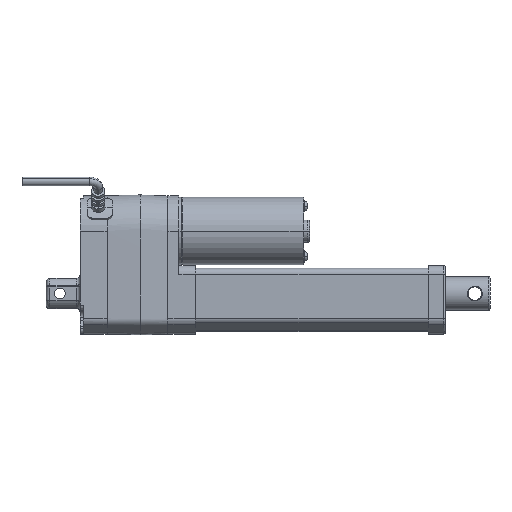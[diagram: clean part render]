
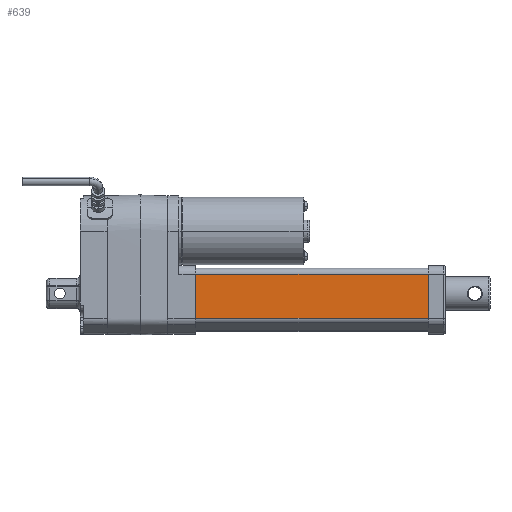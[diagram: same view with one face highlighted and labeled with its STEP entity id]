
A CAD part, top view. The second image highlights one B-rep face of the part: STEP entity #639.
In plain terms, the highlighted planar face has unit normal (0, 0, 1).
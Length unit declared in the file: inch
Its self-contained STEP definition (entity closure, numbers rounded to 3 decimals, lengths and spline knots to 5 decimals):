
#639=ADVANCED_FACE('',(#1450),#1451,.T.);
#1450=FACE_OUTER_BOUND('',#2650,.T.);
#1451=PLANE('',#2651);
#2650=EDGE_LOOP('',(#4625,#4626,#4627,#4628));
#2651=AXIS2_PLACEMENT_3D('',#4629,#4630,#4631);
#4625=ORIENTED_EDGE('',*,*,#7020,.F.);
#4626=ORIENTED_EDGE('',*,*,#7021,.F.);
#4627=ORIENTED_EDGE('',*,*,#7022,.T.);
#4628=ORIENTED_EDGE('',*,*,#6821,.T.);
#4629=CARTESIAN_POINT('',(8.12992,-0.5801,0.76772));
#4630=DIRECTION('',(0.0,-0.0,1.0));
#4631=DIRECTION('',(0.0,1.0,0.0));
#6821=EDGE_CURVE('',#8302,#8299,#8303,.T.);
#7020=EDGE_CURVE('',#8590,#8299,#8591,.T.);
#7021=EDGE_CURVE('',#8592,#8590,#8593,.T.);
#7022=EDGE_CURVE('',#8592,#8302,#8594,.T.);
#8299=VERTEX_POINT('',#10424);
#8302=VERTEX_POINT('',#10427);
#8303=LINE('',#10428,#10429);
#8590=VERTEX_POINT('',#10939);
#8591=LINE('',#10940,#10941);
#8592=VERTEX_POINT('',#10942);
#8593=LINE('',#10943,#10944);
#8594=LINE('',#10945,#10946);
#10424=CARTESIAN_POINT('',(2.69685,0.45276,0.76772));
#10427=CARTESIAN_POINT('',(8.12992,0.45276,0.76772));
#10428=CARTESIAN_POINT('',(8.12992,0.45276,0.76772));
#10429=VECTOR('',#12495,39.37008);
#10939=CARTESIAN_POINT('',(2.69685,-0.5801,0.76772));
#10940=CARTESIAN_POINT('',(2.69685,0.45276,0.76772));
#10941=VECTOR('',#12742,39.37008);
#10942=CARTESIAN_POINT('',(8.12992,-0.5801,0.76772));
#10943=CARTESIAN_POINT('',(8.12992,-0.5801,0.76772));
#10944=VECTOR('',#12743,39.37008);
#10945=CARTESIAN_POINT('',(8.12992,-0.5801,0.76772));
#10946=VECTOR('',#12744,39.37008);
#12495=DIRECTION('',(-1.0,0.0,0.0));
#12742=DIRECTION('',(0.0,1.0,0.0));
#12743=DIRECTION('',(-1.0,0.0,0.0));
#12744=DIRECTION('',(0.0,1.0,0.0));
